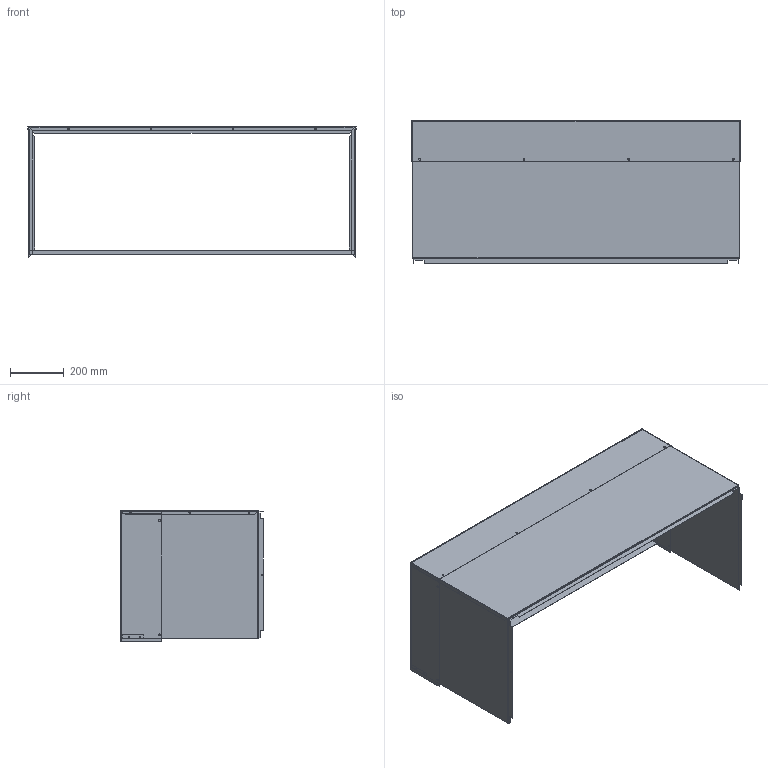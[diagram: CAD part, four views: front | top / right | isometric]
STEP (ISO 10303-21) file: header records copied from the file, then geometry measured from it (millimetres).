
FILE_DESCRIPTION (( 'STEP AP214' ), '1' );
FILE_NAME ('QCX15A-X.STEP', '2016-07-14T18:12:43', ( 'BMC' ), ( 'Bard Manufacturing Co., Inc.' ), 'SwSTEP 2.0', 'SolidWorks 2016', '' );
FILE_SCHEMA (( 'AUTOMOTIVE_DESIGN' ));
Length unit declared in the file: inch
Products named in the file (7): QCX15A-X; 114-124; 100-359; 100-360; 104-1052; 104-1051; 104-1036
Assembly tree (7 placements, depth 2):
  QCX15A-X
    114-124
    100-359
    100-360
    104-1052
    104-1051  x2
    104-1036
Bounding box: 1216.03 x 529.62 x 486.21 mm (x, y, z)
Surface area: 3371661.8 mm2 (no closed solid volume)
Topology: 0 solids, 7 shells, 267 faces, 721 edges, 468 vertices
Faces by surface type: plane 142, cylinder 106, bspline 19
Entity records: 8607 total; most frequent: CARTESIAN_POINT 1881, ORIENTED_EDGE 1354, DIRECTION 1327, EDGE_CURVE 677, LINE 443, VECTOR 443, AXIS2_PLACEMENT_3D 442, VERTEX_POINT 440
